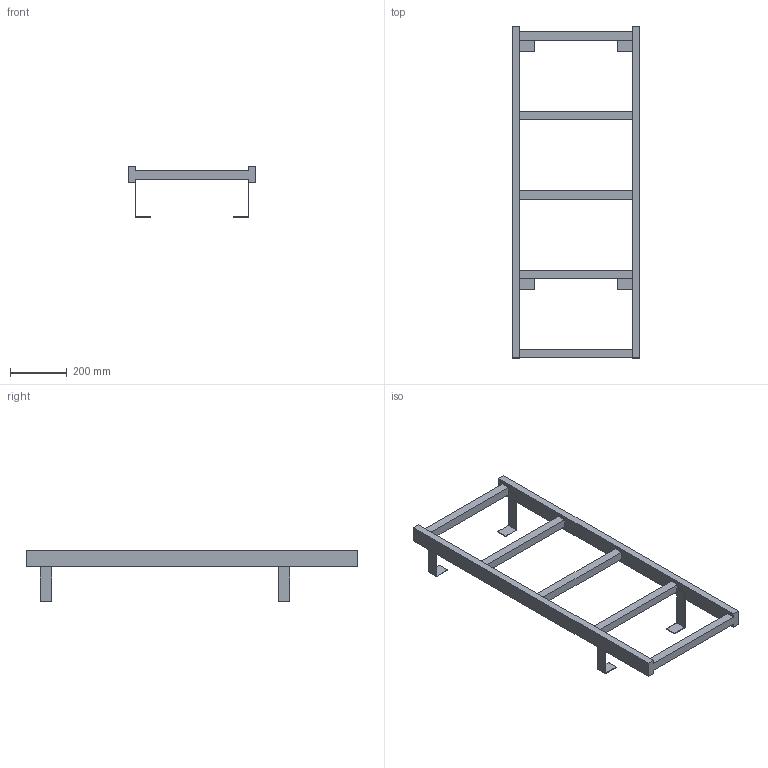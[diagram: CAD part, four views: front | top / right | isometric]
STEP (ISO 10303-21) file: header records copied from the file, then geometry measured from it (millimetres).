
FILE_DESCRIPTION((''),'2;1');
FILE_NAME('52311081','2024-10-17T13:04:01',('wep'),('HUBER SE'),'CREO PARAMETRIC BY PTC INC, 2022162','CREO PARAMETRIC BY PTC INC, 2022162','');
FILE_SCHEMA(('AUTOMOTIVE_DESIGN { 1 0 10303 214 1 1 1 1 }'));
Length unit declared in the file: millimetre
Products named in the file (1): 52311081
Bounding box: 450 x 1170 x 178.5 mm (x, y, z)
Volume: 5199460 mm3; surface area: 679948 mm2
Topology: 1 solids, 1 shells, 62 faces, 180 edges, 116 vertices
Faces by surface type: plane 62
Entity records: 2573 total; most frequent: CARTESIAN_POINT 360, ORIENTED_EDGE 360, DIRECTION 304, VECTOR 180, LINE 180, EDGE_CURVE 180, VERTEX_POINT 116, COLOUR_RGB 106
